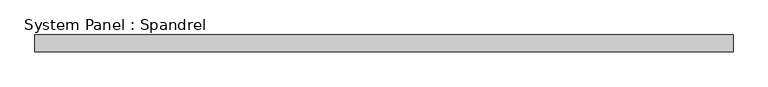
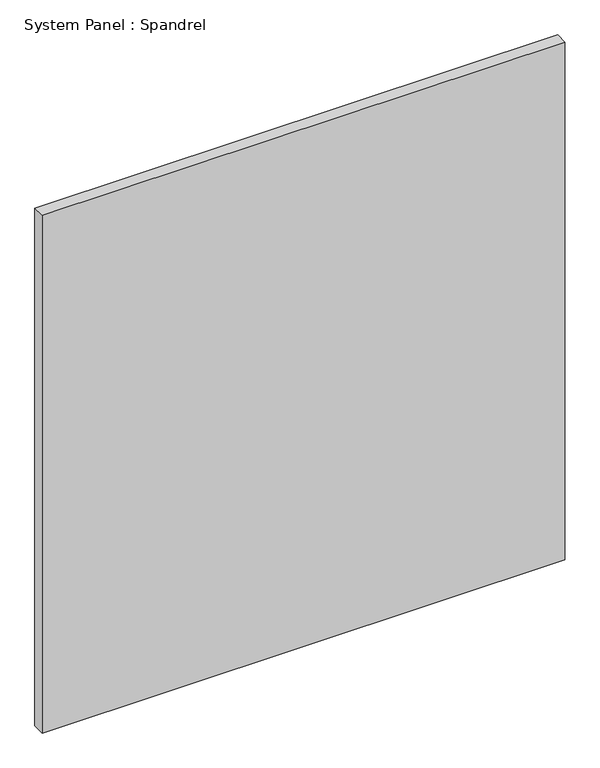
"""IFC4 building model written with IfcOpenShell, lengths in millimetres: plate geometry, System Panel : Spandrel."""

from ifc_helpers import new_model, si_unit, origin, origin_with_axes, place, context, project, spatial, polyline, outline, extrude, source, transform, mapped, element, save


def system_panel_spandrel_a1ced179(model_context):
    return source(origin(), model_context, "Body", "SweptSolid", [
        extrude(outline(polyline([(525.0000002, -25.0), (-525.0000002, -25.0), (-525.0000002, 0.0), (525.0000002, 0.0), (525.0000002, -25.0)])), origin_with_axes(), (0.0, 0.0, 1.0), 1100.0),
    ])


if __name__ == "__main__":
    model = new_model("IFC4")
    model_context = context("Model", 3, world=origin())
    ifc_project = project(units=[si_unit("LENGTHUNIT", "METRE", prefix="MILLI")], contexts=[model_context])
    site = spatial("IfcSite", under=ifc_project)
    building = spatial("IfcBuilding", under=site)
    placement = place(None, origin())
    system_panel_spandrel_shape = system_panel_spandrel_a1ced179(model_context)
    element("IfcPlate", 1, ObjectType="System Panel : Spandrel", at=placement, inside=building, context=model_context, shape_type="MappedRepresentation", body=[
        mapped(system_panel_spandrel_shape, transform((0.0, 0.0, 0.0), x_axis=(1.0, 0.0, 0.0), y_axis=(0.0, 1.0, 0.0), z_axis=(0.0, 0.0, 1.0))),
    ])
    save(model, "model.ifc")
